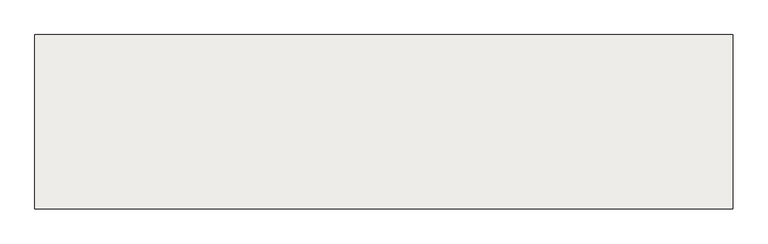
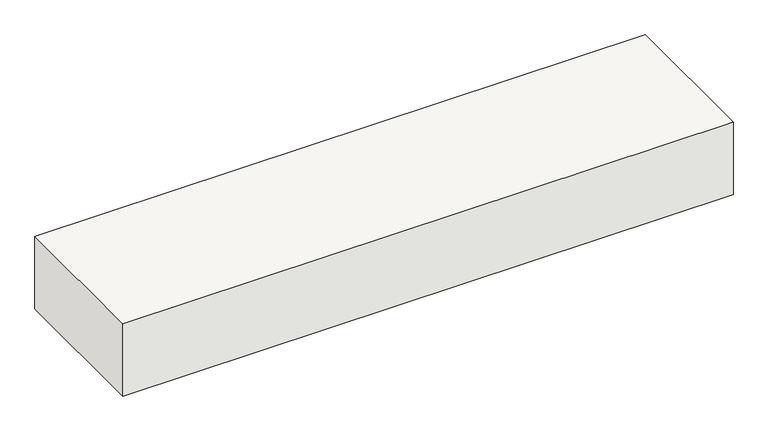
"""IFC4 building model written with IfcOpenShell, lengths in millimetres: slab geometry, Wall Foundation:16_SFO_ihwg beton_C30-35_500x250:317290 : Wall Foundation:16_SFO_ihwg beton_C30-35_500x250:317290."""

from ifc_helpers import new_model, si_unit, frame, origin, place, context, project, spatial, polyline, outline, extrude, source, transform, mapped, element, save


def slab_67891fc0(model_context):
    return source(origin(), model_context, "Body", "SweptSolid", [
        extrude(outline(polyline([(31439.8687149, -7998.9380074), (29439.8687149, -7998.9380074), (29439.8687149, -7498.9380074), (31439.8687149, -7498.9380074), (31439.8687149, -7998.9380074)])), frame((0.0, 0.0, -250.0), z_axis=(0.0, 0.0, 1.0), x_axis=(1.0, 0.0, 0.0)), (0.0, 0.0, 1.0), 250.0),
    ])


if __name__ == "__main__":
    model = new_model("IFC4")
    model_context = context("Model", 3, world=origin())
    ifc_project = project(units=[si_unit("LENGTHUNIT", "METRE", prefix="MILLI")], contexts=[model_context])
    site = spatial("IfcSite", under=ifc_project)
    building = spatial("IfcBuilding", under=site)
    placement = place(None, origin())
    slab_shape = slab_67891fc0(model_context)
    element("IfcSlab", 1, ObjectType="Wall Foundation:16_SFO_ihwg beton_C30-35_500x250:317290 : Wall Foundation:16_SFO_ihwg beton_C30-35_500x250:317290", at=placement, inside=building, context=model_context, shape_type="MappedRepresentation", body=[
        mapped(slab_shape, transform((0.0, 0.0, 0.0), x_axis=(1.0, 0.0, 0.0), y_axis=(0.0, 1.0, 0.0), z_axis=(0.0, 0.0, 1.0))),
    ])
    save(model, "model.ifc")
